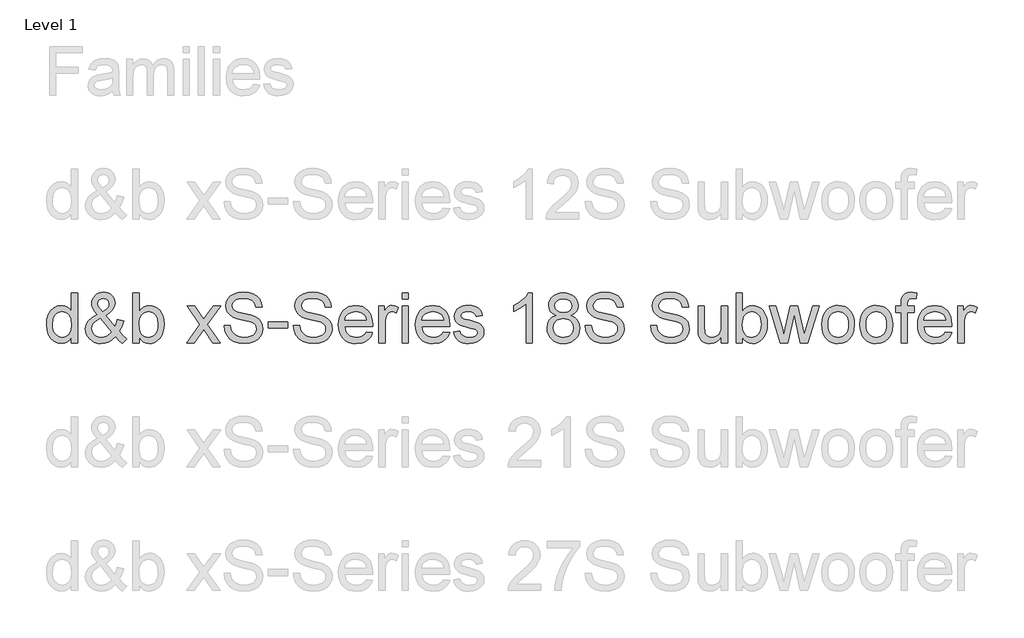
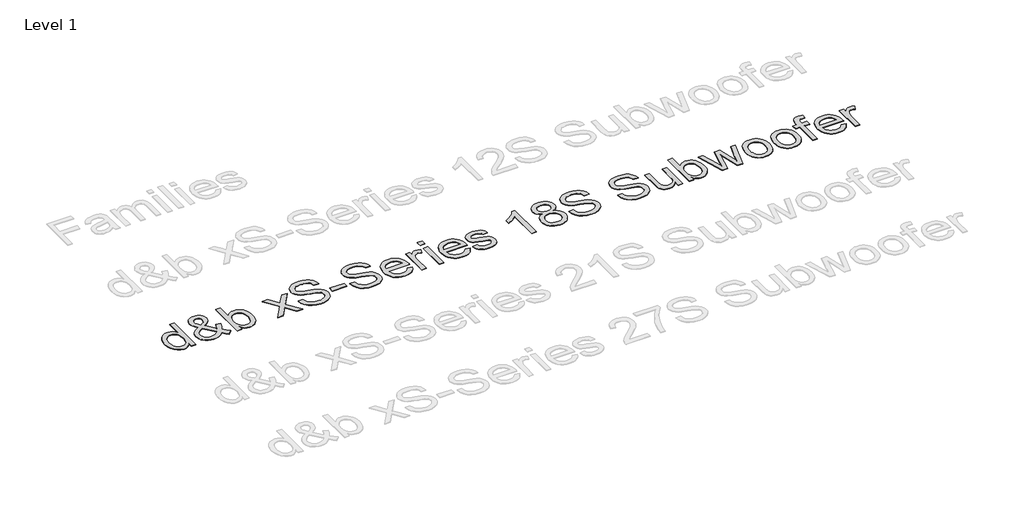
# One storey, part 22 of 55: 1 proxy.
"""IFC4 building model written with IfcOpenShell, lengths in millimetres."""

from ifc_helpers import new_model, si_unit, origin, origin_with_axes, place, context, project, spatial, polyline, outline, extrude, element, save

model = new_model("IFC4")

# Units and contexts
model_context = context("Model", 3, world=origin())
ifc_project = project(units=[si_unit("LENGTHUNIT", "METRE", prefix="MILLI")], contexts=[model_context])

# Site, building, storey
site = spatial("IfcSite", under=ifc_project)
building = spatial("IfcBuilding", under=site)
storey = spatial("IfcBuildingStorey", under=building, Name="Level 1", Elevation=0.0)

# Proxy
placement = place(None, origin())
element("IfcBuildingElementProxy", 1, Name="400mm Arial", ObjectType="400mm Arial", at=placement, inside=storey, context=model_context, shape_type="SweptSolid", body=[
    extrude(outline(polyline([(-20879.8211974, -15148.6945164), (-20879.8211974, -15101.3113154), (-20894.8491769, -15124.7883181), (-20913.0532043, -15141.5576057), (-20934.4332796, -15151.6191783), (-20958.9894028, -15154.9730358), (-20991.4611202, -15150.1169935), (-21021.1859854, -15135.5488665), (-21046.3491139, -15112.2864616), (-21065.1356211, -15081.3475858), (-21076.8342686, -15043.9830379), (-21080.7338177, -15001.4436165), (-21077.1408369, -14959.4314926), (-21066.3618945, -14921.4905962), (-21048.4092531, -14889.7791682), (-21023.2951755, -14866.4554497), (-20992.9203855, -14852.1080519), (-20959.1856065, -14847.325586), (-20934.6110892, -14850.7468885), (-20912.8815261, -14861.0107962), (-20894.4629008, -14876.7438829), (-20879.8211974, -14896.5727224), (-20879.8211974, -14746.8692758), (-20829.5930424, -14746.8692758), (-20829.5930424, -15148.6945164), (-20879.8211974, -15148.6945164)]), holes=[polyline([(-21030.5056627, -15001.2474128), (-21029.089317, -15025.6042665), (-21024.8402799, -15046.6808392), (-21017.7585515, -15064.4771307), (-21007.8441318, -15078.9931411), (-20983.1469871, -15098.3069458), (-20969.2717046, -15103.135397), (-20954.3786151, -15104.7448807), (-20939.415015, -15103.2089734), (-20925.6225058, -15098.6012514), (-20901.5507606, -15080.1703635), (-20892.0440767, -15066.2613584), (-20885.2535882, -15049.1088603), (-20879.8211974, -15005.0733855), (-20885.3516901, -14956.9298951), (-20892.2648059, -14938.3947739), (-20901.9431681, -14923.5507354), (-20913.6448812, -14912.1770504), (-20926.6280499, -14904.0529896), (-20940.8926743, -14899.1785532), (-20956.4387543, -14897.5537411), (-20971.6261493, -14899.1141738), (-20985.5014319, -14903.7954722), (-20998.064602, -14911.5976362), (-21009.3156597, -14922.5206658), (-21018.586286, -14936.8036843), (-21025.2081619, -14954.6858149), (-21030.5056627, -15001.2474128)])]), origin_with_axes(), (0.0, 0.0, 1.0), 5.0),
    extrude(outline(polyline([(-20523.809528, -15099.0549725), (-20549.3405384, -15123.5191252), (-20577.0788409, -15140.99352), (-20607.0734862, -15151.4781569), (-20639.3735254, -15154.9730358), (-20668.6814577, -15152.3855991), (-20694.8010793, -15144.623289), (-20717.7323904, -15131.6861055), (-20737.4753908, -15113.5740486), (-20750.308341, -15096.2038871), (-20759.4747341, -15077.8404442), (-20764.9745699, -15058.4837198), (-20766.8078485, -15038.1337141), (-20760.9094739, -15002.9396699), (-20743.2143499, -14971.3263438), (-20713.796053, -14943.3182613), (-20672.7281596, -14918.9399477), (-20694.6416638, -14890.5885086), (-20707.7995765, -14868.1231814), (-20714.3846642, -14848.9442668), (-20716.5796934, -14830.4520651), (-20714.8506481, -14812.8979626), (-20709.6635119, -14796.5333452), (-20701.018285, -14781.3582129), (-20688.9149674, -14767.3725657), (-20674.1935562, -14755.6555241), (-20657.6940487, -14747.2862088), (-20639.4164449, -14742.2646195), (-20619.3607448, -14740.5907564), (-20600.212487, -14742.1910431), (-20582.8913764, -14746.9919032), (-20567.397413, -14754.9933366), (-20553.7305969, -14766.1953433), (-20542.5715097, -14779.6414302), (-20534.6007332, -14794.3751041), (-20529.8182672, -14810.396365), (-20528.2241119, -14827.7052129), (-20532.9452642, -14855.68877), (-20547.108721, -14881.563137), (-20570.7144823, -14905.3283139), (-20603.7625482, -14926.9843007), (-20531.069066, -15017.5323224), (-20518.6837055, -14991.6579554), (-20509.3885538, -14961.9085647), (-20459.1603987, -14972.7978718), (-20474.6114425, -15019.3226815), (-20494.6732739, -15055.4977443), (-20466.1256311, -15088.8033276), (-20434.0463211, -15116.3209009), (-20471.7174374, -15154.9730358), (-20497.3465498, -15131.52669), (-20523.809528, -15099.0549725)]), holes=[polyline([(-20557.4584678, -15062.8553842), (-20647.1235727, -14950.9211558), (-20681.3733865, -14972.7733463), (-20702.305872, -14993.0068561), (-20713.0112381, -15012.3329235), (-20716.5796934, -15031.4627873), (-20711.6991256, -15055.1543878), (-20697.0574222, -15079.7289051), (-20686.2784798, -15090.6733944), (-20673.4639236, -15098.4908868), (-20658.6137537, -15103.1813823), (-20641.7279702, -15104.7448807), (-20619.0051256, -15101.8263502), (-20595.5710425, -15093.0707588), (-20574.1480476, -15079.6798541), (-20557.4584678, -15062.8553842)]), polyline([(-20629.1709314, -14895.2973981), (-20602.9041569, -14878.6323438), (-20587.8700461, -14864.1500559), (-20580.8067117, -14850.0601755), (-20578.452267, -14834.5723435), (-20581.5547385, -14817.0243723), (-20590.862153, -14803.0325938), (-20604.829406, -14793.8723321), (-20621.9113933, -14790.8189115), (-20639.3612626, -14793.8478066), (-20653.6473468, -14802.9344919), (-20663.1754905, -14816.3867102), (-20666.3515384, -14832.5122043), (-20662.0350563, -14850.9063041), (-20648.9875082, -14871.360543), (-20629.1709314, -14895.2973981)])]), origin_with_axes(), (0.0, 0.0, 1.0), 5.0),
    extrude(outline(polyline([(-20333.590011, -15148.6945164), (-20383.8181661, -15148.6945164), (-20383.8181661, -14746.8692758), (-20333.590011, -14746.8692758), (-20333.590011, -14895.8860093), (-20317.0721094, -14874.6408241), (-20298.4204923, -14859.4656918), (-20277.6351595, -14850.3606124), (-20254.7161112, -14847.325586), (-20228.8417442, -14850.0601755), (-20204.3898543, -14858.263944), (-20182.758393, -14871.4218567), (-20165.3453119, -14889.0188788), (-20151.6968898, -14910.883332), (-20141.3594058, -14936.8435381), (-20134.8478945, -14965.8203766), (-20132.6773907, -14996.734727), (-20134.9245365, -15032.4070178), (-20141.6659741, -15063.7873519), (-20152.9017034, -15090.8757295), (-20168.6317244, -15113.6721505), (-20187.5132678, -15131.7412878), (-20208.2035643, -15144.6478145), (-20230.702614, -15152.3917305), (-20255.0104168, -15154.9730358), (-20278.6836232, -15151.6437038), (-20299.671291, -15141.6557076), (-20317.9734203, -15125.0090473), (-20333.590011, -15101.7037229), (-20333.590011, -15148.6945164)]), holes=[polyline([(-20333.590011, -14999.0891717), (-20330.1564457, -15040.9786682), (-20319.8557498, -15069.3301073), (-20307.6849872, -15084.8240707), (-20293.5399244, -15095.8911874), (-20277.4205617, -15102.5314574), (-20259.3268989, -15104.7448807), (-20244.3050508, -15103.1139372), (-20230.3377977, -15098.2211067), (-20217.4251396, -15090.0663891), (-20205.5670767, -15078.6497845), (-20195.6526569, -15064.0019498), (-20188.5709285, -15046.1535416), (-20184.3218914, -15025.1045601), (-20182.9055458, -15000.8550053), (-20188.3379366, -14954.8942814), (-20195.1284251, -14937.1010555), (-20204.6351089, -14922.7659205), (-20216.0670419, -14911.735592), (-20228.6332778, -14903.8567859), (-20242.3338164, -14899.1295023), (-20257.1686579, -14897.5537411), (-20272.190506, -14899.1846846), (-20286.1577591, -14904.0775151), (-20299.0704171, -14912.2322327), (-20310.9284801, -14923.6488372), (-20320.8428999, -14938.1495192), (-20327.9246283, -14955.556469), (-20332.1736653, -14975.8696865), (-20333.590011, -14999.0891717)])]), origin_with_axes(), (0.0, 0.0, 1.0), 5.0),
    extrude(outline(polyline([(-19950.6003285, -15148.6945164), (-19843.2768878, -15000.2663941), (-19944.3218092, -14853.6041054), (-19884.0872638, -14853.6041054), (-19835.3306367, -14924.3355503), (-19812.4729021, -14957.5920827), (-19792.6563253, -14930.3197641), (-19737.1306695, -14853.6041054), (-19676.6999204, -14853.6041054), (-19782.8461387, -15000.364496), (-19680.623995, -15148.6945164), (-19740.9566422, -15148.6945164), (-19802.5646137, -15059.4218189), (-19813.7482263, -15043.0388074), (-19890.1695795, -15148.6945164), (-19950.6003285, -15148.6945164)])), origin_with_axes(), (0.0, 0.0, 1.0), 5.0),
    extrude(outline(polyline([(-19649.2313981, -15010.56709), (-19599.003243, -15010.56709), (-19593.2397584, -15038.4402825), (-19582.8164352, -15060.844296), (-19566.556051, -15078.6252591), (-19543.2813835, -15092.6293004), (-19514.8318425, -15101.7159856), (-19483.0468381, -15104.7448807), (-19455.063281, -15102.4517496), (-19430.5623402, -15095.5723563), (-19410.7089752, -15084.6830493), (-19396.6681457, -15070.3601769), (-19388.3172244, -15053.9158517), (-19385.533584, -15036.6621862), (-19387.6182486, -15019.849979), (-19393.8722425, -15005.3186402), (-19406.5764341, -14992.9210169), (-19428.0116917, -14982.5099565), (-19501.1466323, -14963.3310418), (-19549.1552327, -14950.639113), (-19579.8733793, -14938.5603208), (-19604.8770922, -14921.6622745), (-19622.5967416, -14901.1835101), (-19633.1549549, -14877.565486), (-19636.6743593, -14851.2496606), (-19632.3210891, -14821.8313637), (-19619.2612782, -14794.3996296), (-19597.8382834, -14771.1494875), (-19568.395461, -14754.2759667), (-19533.054264, -14744.012059), (-19493.9361452, -14740.5907564), (-19451.5561394, -14744.1714745), (-19414.4736342, -14754.9136288), (-19384.013005, -14772.59649), (-19361.4986269, -14796.999329), (-19347.249331, -14826.6015669), (-19341.5839483, -14859.8826247), (-19391.8121033, -14859.8826247), (-19401.0336787, -14829.9125049), (-19409.3968627, -14818.0544419), (-19420.2616443, -14808.2810436), (-19450.3053406, -14795.1844445), (-19491.9741079, -14790.8189115), (-19534.6238939, -14795.1353936), (-19550.9271976, -14800.5309962), (-19563.8827752, -14808.0848398), (-19580.805347, -14827.1411272), (-19586.4462043, -14849.7781326), (-19582.4485532, -14869.0796746), (-19570.4556002, -14884.6042948), (-19542.1041611, -14898.4857088), (-19488.4424407, -14912.6614283), (-19433.0639377, -14926.1259093), (-19399.5621507, -14937.8736077), (-19370.9286687, -14956.0960292), (-19350.9526764, -14978.5858819), (-19339.2172408, -15005.097911), (-19335.3054289, -15035.3868619), (-19339.805852, -15066.3502632), (-19353.3071212, -15095.4742545), (-19375.2574136, -15120.5392811), (-19405.1049061, -15139.3257883), (-19440.9979261, -15151.0612239), (-19481.0848008, -15154.9730358), (-19530.2951491, -15150.7546556), (-19570.7989567, -15138.099515), (-19603.0622077, -15116.958563), (-19627.5508858, -15087.2827487), (-19643.2717098, -15051.1322113), (-19649.2313981, -15010.56709)])), origin_with_axes(), (0.0, 0.0, 1.0), 5.0),
    extrude(outline(polyline([(-19291.3557932, -15029.4026481), (-19291.3557932, -14979.174493), (-19134.3928086, -14979.174493), (-19134.3928086, -15029.4026481), (-19291.3557932, -15029.4026481)])), origin_with_axes(), (0.0, 0.0, 1.0), 5.0),
    extrude(outline(polyline([(-19090.4431729, -15010.56709), (-19040.2150178, -15010.56709), (-19034.4515332, -15038.4402825), (-19024.02821, -15060.844296), (-19007.7678258, -15078.6252591), (-18984.4931583, -15092.6293004), (-18956.0436173, -15101.7159856), (-18924.2586129, -15104.7448807), (-18896.2750558, -15102.4517496), (-18871.774115, -15095.5723563), (-18851.9207499, -15084.6830493), (-18837.8799205, -15070.3601769), (-18829.5289992, -15053.9158517), (-18826.7453587, -15036.6621862), (-18828.8300234, -15019.849979), (-18835.0840173, -15005.3186402), (-18847.7882089, -14992.9210169), (-18869.2234665, -14982.5099565), (-18942.3584071, -14963.3310418), (-18990.3670075, -14950.639113), (-19021.0851541, -14938.5603208), (-19046.088867, -14921.6622745), (-19063.8085164, -14901.1835101), (-19074.3667297, -14877.565486), (-19077.8861341, -14851.2496606), (-19073.5328638, -14821.8313637), (-19060.473053, -14794.3996296), (-19039.0500582, -14771.1494875), (-19009.6072358, -14754.2759667), (-18974.2660388, -14744.012059), (-18935.14792, -14740.5907564), (-18892.7679141, -14744.1714745), (-18855.685409, -14754.9136288), (-18825.2247798, -14772.59649), (-18802.7104017, -14796.999329), (-18788.4611058, -14826.6015669), (-18782.7957231, -14859.8826247), (-18833.0238781, -14859.8826247), (-18842.2454535, -14829.9125049), (-18850.6086375, -14818.0544419), (-18861.4734191, -14808.2810436), (-18891.5171154, -14795.1844445), (-18933.1858827, -14790.8189115), (-18975.8356687, -14795.1353936), (-18992.1389724, -14800.5309962), (-19005.09455, -14808.0848398), (-19022.0171218, -14827.1411272), (-19027.657979, -14849.7781326), (-19023.660328, -14869.0796746), (-19011.667375, -14884.6042948), (-18983.3159359, -14898.4857088), (-18929.6542155, -14912.6614283), (-18874.2757125, -14926.1259093), (-18840.7739255, -14937.8736077), (-18812.1404435, -14956.0960292), (-18792.1644512, -14978.5858819), (-18780.4290156, -15005.097911), (-18776.5172037, -15035.3868619), (-18781.0176267, -15066.3502632), (-18794.518896, -15095.4742545), (-18816.4691883, -15120.5392811), (-18846.3166809, -15139.3257883), (-18882.2097009, -15151.0612239), (-18922.2965756, -15154.9730358), (-18971.5069238, -15150.7546556), (-19012.0107315, -15138.099515), (-19044.2739825, -15116.958563), (-19068.7626606, -15087.2827487), (-19084.4834846, -15051.1322113), (-19090.4431729, -15010.56709)])), origin_with_axes(), (0.0, 0.0, 1.0), 5.0),
    extrude(outline(polyline([(-18500.850962, -15060.795245), (-18451.6038255, -15067.0737644), (-18459.1546035, -15086.7983707), (-18469.3480004, -15104.180795), (-18482.1840164, -15119.2210372), (-18497.6626513, -15131.9190974), (-18515.6244897, -15142.0051955), (-18535.9101161, -15149.2095512), (-18583.4527326, -15154.9730358), (-18614.618469, -15152.4867667), (-18642.3874282, -15145.0279592), (-18666.7596104, -15132.5966135), (-18687.7350155, -15115.1927294), (-18704.602405, -15093.300685), (-18716.6505403, -15067.4048582), (-18723.8794215, -15037.5052491), (-18726.2890486, -15003.6018575), (-18723.8548961, -14968.5488348), (-18716.5524385, -14937.6528785), (-18704.3816758, -14910.9139888), (-18687.342608, -14888.3321657), (-18666.4223852, -14870.3917871), (-18642.6081574, -14857.5772309), (-18615.8999246, -14849.8884972), (-18586.2976867, -14847.325586), (-18557.6488763, -14849.8823658), (-18531.7407868, -14857.5527054), (-18508.5734182, -14870.3366048), (-18488.1467704, -14888.2340638), (-18471.472519, -14910.766836), (-18459.5623394, -14937.4566748), (-18452.4162316, -14968.3035801), (-18450.0341957, -15003.3075519), (-18450.3285013, -15016.8456094), (-18676.0608935, -15016.8456094), (-18673.1515601, -15036.8890467), (-18667.3666157, -15054.4431493), (-18658.7060604, -15069.507917), (-18647.1698942, -15082.0833498), (-18633.3957791, -15091.9977696), (-18618.0213774, -15099.079498), (-18582.4717139, -15104.7448807), (-18555.7389556, -15102.1206558), (-18533.2245775, -15094.2479811), (-18514.9285796, -15080.6363473), (-18500.850962, -15060.795245)]), holes=[polyline([(-18676.0608935, -14966.6174543), (-18500.2623508, -14966.6174543), (-18507.0559049, -14940.0808997), (-18520.3732332, -14921.0981887), (-18534.0707061, -14910.7974929), (-18549.65664, -14903.439853), (-18567.1310348, -14899.025269), (-18586.4938904, -14897.5537411), (-18620.3512967, -14902.2503679), (-18648.3471166, -14916.3402483), (-18667.8080741, -14938.3028034), (-18676.0608935, -14966.6174543)])]), origin_with_axes(), (0.0, 0.0, 1.0), 5.0),
    extrude(outline(polyline([(-18399.8060406, -15148.6945164), (-18399.8060406, -14853.6041054), (-18355.8564049, -14853.6041054), (-18355.8564049, -14897.2594355), (-18339.6205462, -14871.9491542), (-18324.6600117, -14857.0376707), (-18309.6504263, -14849.7536071), (-18293.2674148, -14847.325586), (-18268.2514391, -14851.2006097), (-18242.843056, -14862.8256807), (-18259.618475, -14907.8544369), (-18277.2768108, -14900.128915), (-18294.9351465, -14897.5537411), (-18309.9324692, -14900.0308132), (-18323.3356365, -14907.4620295), (-18334.1636299, -14919.2833042), (-18341.4354307, -14934.9305518), (-18347.5422718, -14962.9876853), (-18349.5778855, -14993.5954673), (-18349.5778855, -15148.6945164), (-18399.8060406, -15148.6945164)])), origin_with_axes(), (0.0, 0.0, 1.0), 5.0),
    extrude(outline(polyline([(-18211.4504591, -14797.0974309), (-18211.4504591, -14746.8692758), (-18161.222304, -14746.8692758), (-18161.222304, -14797.0974309), (-18211.4504591, -14797.0974309)])), origin_with_axes(), (0.0, 0.0, 1.0), 5.0),
    extrude(outline(polyline([(-18211.4504591, -15148.6945164), (-18211.4504591, -14853.6041054), (-18161.222304, -14853.6041054), (-18161.222304, -15148.6945164), (-18211.4504591, -15148.6945164)])), origin_with_axes(), (0.0, 0.0, 1.0), 5.0),
    extrude(outline(polyline([(-17879.2775429, -15060.795245), (-17830.0304065, -15067.0737644), (-17837.5811844, -15086.7983707), (-17847.7745814, -15104.180795), (-17860.6105973, -15119.2210372), (-17876.0892323, -15131.9190974), (-17894.0510707, -15142.0051955), (-17914.336697, -15149.2095512), (-17961.8793136, -15154.9730358), (-17993.0450499, -15152.4867667), (-18020.8140092, -15145.0279592), (-18045.1861914, -15132.5966135), (-18066.1615965, -15115.1927294), (-18083.0289859, -15093.300685), (-18095.0771213, -15067.4048582), (-18102.3060025, -15037.5052491), (-18104.7156295, -15003.6018575), (-18102.281477, -14968.5488348), (-18094.9790194, -14937.6528785), (-18082.8082567, -14910.9139888), (-18065.769189, -14888.3321657), (-18044.8489662, -14870.3917871), (-18021.0347384, -14857.5772309), (-17994.3265055, -14849.8884972), (-17964.7242676, -14847.325586), (-17936.0754573, -14849.8823658), (-17910.1673678, -14857.5527054), (-17886.9999991, -14870.3366048), (-17866.5733513, -14888.2340638), (-17849.8990999, -14910.766836), (-17837.9889203, -14937.4566748), (-17830.8428126, -14968.3035801), (-17828.4607766, -15003.3075519), (-17828.7550822, -15016.8456094), (-18054.4874745, -15016.8456094), (-18051.578141, -15036.8890467), (-18045.7931967, -15054.4431493), (-18037.1326413, -15069.507917), (-18025.5964751, -15082.0833498), (-18011.8223601, -15091.9977696), (-17996.4479584, -15099.079498), (-17960.8982949, -15104.7448807), (-17934.1655366, -15102.1206558), (-17911.6511585, -15094.2479811), (-17893.3551606, -15080.6363473), (-17879.2775429, -15060.795245)]), holes=[polyline([(-18054.4874745, -14966.6174543), (-17878.6889317, -14966.6174543), (-17885.4824859, -14940.0808997), (-17898.7998141, -14921.0981887), (-17912.4972871, -14910.7974929), (-17928.0832209, -14903.439853), (-17945.5576157, -14899.025269), (-17964.9204714, -14897.5537411), (-17998.7778777, -14902.2503679), (-18026.7736975, -14916.3402483), (-18046.234655, -14938.3028034), (-18054.4874745, -14966.6174543)])]), origin_with_axes(), (0.0, 0.0, 1.0), 5.0),
    extrude(outline(polyline([(-17797.0681797, -15060.795245), (-17746.8400246, -15054.5167257), (-17738.918299, -15076.0010342), (-17723.5898825, -15091.7954345), (-17700.7566734, -15101.5075192), (-17670.3205696, -15104.7448807), (-17640.2523479, -15101.7772993), (-17619.1113959, -15092.874555), (-17606.6034081, -15079.9741597), (-17602.4340788, -15065.0136253), (-17606.6279335, -15052.2113318), (-17619.2094978, -15042.4501962), (-17670.9091808, -15028.1273239), (-17746.545719, -15003.5528066), (-17765.6878455, -14991.2042343), (-17779.5569967, -14974.858011), (-17787.9814944, -14955.556469), (-17790.7896603, -14934.3419406), (-17788.5333174, -14914.880983), (-17781.7642887, -14896.9160789), (-17771.0957109, -14881.1584668), (-17757.1407205, -14868.3193852), (-17725.2085633, -14853.4569526), (-17704.3251287, -14848.8584276), (-17681.9946916, -14847.325586), (-17649.302245, -14849.7903953), (-17620.8772295, -14857.1848234), (-17598.0194949, -14868.785369), (-17582.0288908, -14883.8685308), (-17571.4338893, -14903.5502176), (-17564.7629625, -14928.946338), (-17614.9911176, -14935.2248574), (-17621.3309506, -14919.4181943), (-17633.8757267, -14907.5110804), (-17652.748073, -14900.0430759), (-17678.070617, -14897.5537411), (-17706.9125654, -14899.9327113), (-17726.140531, -14907.069622), (-17736.9562617, -14917.3703179), (-17740.5615053, -14929.2406436), (-17734.5772915, -14943.8578215), (-17715.8398352, -14954.9433323), (-17672.5769125, -14965.6364356), (-17598.8533607, -14989.2789852), (-17579.3801404, -15000.5852252), (-17564.6158097, -15016.0607944), (-17555.3083952, -15035.7547439), (-17552.2059237, -15059.7161245), (-17555.8479555, -15084.4868455), (-17566.7740507, -15107.7860386), (-17584.5672766, -15127.7865564), (-17608.8107, -15142.6612517), (-17638.0941069, -15151.8950898), (-17671.0072827, -15154.9730358), (-17698.040478, -15153.4892451), (-17721.6523707, -15149.037873), (-17741.8429609, -15141.6189194), (-17758.6122485, -15131.2323844), (-17772.3097214, -15117.9273189), (-17783.2848676, -15101.7527738), (-17791.5376871, -15082.7087492), (-17797.0681797, -15060.795245)])), origin_with_axes(), (0.0, 0.0, 1.0), 5.0),
    extrude(outline(polyline([(-17162.9377219, -15148.6945164), (-17213.165877, -15148.6945164), (-17213.165877, -14835.5533621), (-17234.1351507, -14852.5127221), (-17260.7452817, -14869.4475566), (-17313.6221871, -14894.8068888), (-17313.6221871, -14847.325586), (-17274.1729745, -14825.8658029), (-17239.9967371, -14800.3347925), (-17213.0555124, -14773.1851012), (-17195.3113375, -14746.8692758), (-17162.9377219, -14746.8692758), (-17162.9377219, -15148.6945164)])), origin_with_axes(), (0.0, 0.0, 1.0), 5.0),
    extrude(outline(polyline([(-16970.461862, -14927.3767081), (-16997.3540359, -14914.1329563), (-17016.2263822, -14896.1803149), (-17027.3732067, -14873.886666), (-17031.0888148, -14847.6198916), (-17029.0654638, -14827.1349958), (-17022.9954109, -14808.35462), (-17012.8786561, -14791.278764), (-16998.7151992, -14775.907428), (-16981.1856222, -14763.2032364), (-16960.9705065, -14754.1288139), (-16938.0698523, -14748.6841603), (-16912.4836596, -14746.8692758), (-16886.7748395, -14748.7270799), (-16863.702507, -14754.3004921), (-16843.2666622, -14763.5895125), (-16825.467305, -14776.594141), (-16811.0463308, -14792.265914), (-16800.7456349, -14809.5563678), (-16794.5652174, -14828.4655024), (-16792.5050782, -14848.9933177), (-16796.1716354, -14874.4139636), (-16807.1713071, -14896.3274677), (-16825.6267205, -14914.1697445), (-16851.660503, -14927.3767081), (-16820.7461527, -14943.3059985), (-16798.2440373, -14966.7646071), (-16784.5220389, -14996.6243624), (-16779.9480394, -15031.7570929), (-16782.2166451, -15056.8098568), (-16789.022462, -15079.777956), (-16800.3654902, -15100.6613906), (-16816.2457296, -15119.4601605), (-16835.8293145, -15134.9970435), (-16858.282379, -15146.094817), (-16883.604923, -15152.7534811), (-16911.7969465, -15154.9730358), (-16939.9889701, -15152.7442841), (-16965.3115141, -15146.0580288), (-16987.7645785, -15134.91427), (-17007.3481634, -15119.3130077), (-17023.2284029, -15100.3824134), (-17034.571431, -15079.2506585), (-17041.377248, -15055.9177429), (-17043.6458536, -15030.3836668), (-17038.8879131, -14993.8897729), (-17024.6140917, -14963.8706021), (-17001.5601533, -14941.3562239), (-16970.461862, -14927.3767081)]), holes=[polyline([(-16993.4176985, -15028.6178332), (-16991.3207711, -15047.8335361), (-16985.029989, -15066.4361023), (-16973.4171807, -15082.6596983), (-16955.3541747, -15094.7384905), (-16933.7227134, -15102.2432832), (-16911.4045391, -15104.7448807), (-16877.216039, -15099.4841682), (-16863.3223623, -15092.9082775), (-16851.5624012, -15083.7020306), (-16835.5227462, -15059.8019637), (-16830.1761945, -15030.187463), (-16835.6944245, -15000.0701904), (-16852.2491142, -14975.6428259), (-16864.3279064, -14966.2005214), (-16878.4913632, -14959.4560181), (-16913.0722708, -14954.0604155), (-16946.7825243, -14959.3824417), (-16960.5198511, -14966.0349745), (-16972.1786447, -14975.3485203), (-16988.1079351, -14999.3099009), (-16993.4176985, -15028.6178332)]), polyline([(-16980.8606597, -14849.0914196), (-16976.4092876, -14871.0171865), (-16963.0551712, -14888.5283694), (-16941.1907179, -14900.0062877), (-16911.2083353, -14903.8322604), (-16881.9249285, -14900.0308132), (-16860.3915691, -14888.6264713), (-16847.1478172, -14871.7038995), (-16842.7332333, -14851.3477625), (-16847.29497, -14830.2190732), (-16860.9801803, -14812.7446784), (-16882.8078453, -14801.0092428), (-16911.7969465, -14797.0974309), (-16940.9699887, -14800.9234037), (-16962.7608656, -14812.4013219), (-16976.3357112, -14829.2257918), (-16980.8606597, -14849.0914196)])]), origin_with_axes(), (0.0, 0.0, 1.0), 5.0),
    extrude(outline(polyline([(-16735.9984038, -15010.56709), (-16685.7702487, -15010.56709), (-16680.0067641, -15038.4402825), (-16669.5834409, -15060.844296), (-16653.3230567, -15078.6252591), (-16630.0483891, -15092.6293004), (-16601.5988482, -15101.7159856), (-16569.8138438, -15104.7448807), (-16541.8302867, -15102.4517496), (-16517.3293458, -15095.5723563), (-16497.4759808, -15084.6830493), (-16483.4351513, -15070.3601769), (-16475.08423, -15053.9158517), (-16472.3005896, -15036.6621862), (-16474.3852543, -15019.849979), (-16480.6392482, -15005.3186402), (-16493.3434397, -14992.9210169), (-16514.7786973, -14982.5099565), (-16587.913638, -14963.3310418), (-16635.9222383, -14950.639113), (-16666.6403849, -14938.5603208), (-16691.6440979, -14921.6622745), (-16709.3637473, -14901.1835101), (-16719.9219606, -14877.565486), (-16723.441365, -14851.2496606), (-16719.0880947, -14821.8313637), (-16706.0282839, -14794.3996296), (-16684.605289, -14771.1494875), (-16655.1624667, -14754.2759667), (-16619.8212697, -14744.012059), (-16580.7031509, -14740.5907564), (-16538.323145, -14744.1714745), (-16501.2406399, -14754.9136288), (-16470.7800107, -14772.59649), (-16448.2656326, -14796.999329), (-16434.0163367, -14826.6015669), (-16428.3509539, -14859.8826247), (-16478.579109, -14859.8826247), (-16487.8006843, -14829.9125049), (-16496.1638684, -14818.0544419), (-16507.02865, -14808.2810436), (-16537.0723462, -14795.1844445), (-16578.7411136, -14790.8189115), (-16621.3908995, -14795.1353936), (-16637.6942033, -14800.5309962), (-16650.6497809, -14808.0848398), (-16667.5723527, -14827.1411272), (-16673.2132099, -14849.7781326), (-16669.2155589, -14869.0796746), (-16657.2226059, -14884.6042948), (-16628.8711668, -14898.4857088), (-16575.2094464, -14912.6614283), (-16519.8309434, -14926.1259093), (-16486.3291564, -14937.8736077), (-16457.6956744, -14956.0960292), (-16437.7196821, -14978.5858819), (-16425.9842464, -15005.097911), (-16422.0724345, -15035.3868619), (-16426.5728576, -15066.3502632), (-16440.0741268, -15095.4742545), (-16462.0244192, -15120.5392811), (-16491.8719118, -15139.3257883), (-16527.7649318, -15151.0612239), (-16567.8518065, -15154.9730358), (-16617.0621547, -15150.7546556), (-16657.5659624, -15138.099515), (-16689.8292134, -15116.958563), (-16714.3178915, -15087.2827487), (-16730.0387154, -15051.1322113), (-16735.9984038, -15010.56709)])), origin_with_axes(), (0.0, 0.0, 1.0), 5.0),
    extrude(outline(polyline([(-16208.6027755, -15010.56709), (-16158.3746204, -15010.56709), (-16152.6111358, -15038.4402825), (-16142.1878126, -15060.844296), (-16125.9274284, -15078.6252591), (-16102.6527609, -15092.6293004), (-16074.2032199, -15101.7159856), (-16042.4182155, -15104.7448807), (-16014.4346584, -15102.4517496), (-15989.9337175, -15095.5723563), (-15970.0803525, -15084.6830493), (-15956.0395231, -15070.3601769), (-15947.6886018, -15053.9158517), (-15944.9049613, -15036.6621862), (-15946.989626, -15019.849979), (-15953.2436199, -15005.3186402), (-15965.9478115, -14992.9210169), (-15987.383069, -14982.5099565), (-16060.5180097, -14963.3310418), (-16108.5266101, -14950.639113), (-16139.2447566, -14938.5603208), (-16164.2484696, -14921.6622745), (-16181.968119, -14901.1835101), (-16192.5263323, -14877.565486), (-16196.0457367, -14851.2496606), (-16191.6924664, -14821.8313637), (-16178.6326556, -14794.3996296), (-16157.2096607, -14771.1494875), (-16127.7668384, -14754.2759667), (-16092.4256414, -14744.012059), (-16053.3075226, -14740.5907564), (-16010.9275167, -14744.1714745), (-15973.8450116, -14754.9136288), (-15943.3843824, -14772.59649), (-15920.8700043, -14796.999329), (-15906.6207084, -14826.6015669), (-15900.9553256, -14859.8826247), (-15951.1834807, -14859.8826247), (-15960.4050561, -14829.9125049), (-15968.7682401, -14818.0544419), (-15979.6330217, -14808.2810436), (-16009.6767179, -14795.1844445), (-16051.3454853, -14790.8189115), (-16093.9952712, -14795.1353936), (-16110.298575, -14800.5309962), (-16123.2541526, -14808.0848398), (-16140.1767244, -14827.1411272), (-16145.8175816, -14849.7781326), (-16141.8199306, -14869.0796746), (-16129.8269776, -14884.6042948), (-16101.4755385, -14898.4857088), (-16047.8138181, -14912.6614283), (-15992.4353151, -14926.1259093), (-15958.9335281, -14937.8736077), (-15930.3000461, -14956.0960292), (-15910.3240538, -14978.5858819), (-15898.5886181, -15005.097911), (-15894.6768063, -15035.3868619), (-15899.1772293, -15066.3502632), (-15912.6784986, -15095.4742545), (-15934.6287909, -15120.5392811), (-15964.4762835, -15139.3257883), (-16000.3693035, -15151.0612239), (-16040.4561782, -15154.9730358), (-16089.6665264, -15150.7546556), (-16130.1703341, -15138.099515), (-16162.4335851, -15116.958563), (-16186.9222632, -15087.2827487), (-16202.6430872, -15051.1322113), (-16208.6027755, -15010.56709)])), origin_with_axes(), (0.0, 0.0, 1.0), 5.0),
    extrude(outline(polyline([(-15637.2575115, -15148.6945164), (-15637.2575115, -15097.975852), (-15655.4308821, -15122.9121199), (-15676.5963595, -15140.7237399), (-15700.7539439, -15151.4107118), (-15727.9036351, -15154.9730358), (-15752.3677878, -15152.4714382), (-15775.1396833, -15144.9666455), (-15794.2450216, -15133.684931), (-15807.7095026, -15119.852568), (-15816.7716624, -15103.0526236), (-15822.6700371, -15082.8681648), (-15825.613093, -15036.1716768), (-15825.613093, -14853.6041054), (-15775.384938, -14853.6041054), (-15775.384938, -15012.5291273), (-15772.3437801, -15063.738301), (-15765.0229284, -15080.8202883), (-15752.4781524, -15093.8065227), (-15735.5433179, -15102.0102912), (-15715.0522907, -15104.7448807), (-15693.3840412, -15101.9489776), (-15673.1137433, -15093.5612681), (-15656.399638, -15080.3543045), (-15645.3999663, -15063.1006389), (-15639.2931252, -15039.4703521), (-15637.2575115, -15007.1335247), (-15637.2575115, -14853.6041054), (-15587.0293564, -14853.6041054), (-15587.0293564, -15148.6945164), (-15637.2575115, -15148.6945164)])), origin_with_axes(), (0.0, 0.0, 1.0), 5.0),
    extrude(outline(polyline([(-15467.7374881, -15148.6945164), (-15517.9656432, -15148.6945164), (-15517.9656432, -14746.8692758), (-15467.7374881, -14746.8692758), (-15467.7374881, -14895.8860093), (-15451.2195865, -14874.6408241), (-15432.5679694, -14859.4656918), (-15411.7826367, -14850.3606124), (-15388.8635884, -14847.325586), (-15362.9892214, -14850.0601755), (-15338.5373314, -14858.263944), (-15316.9058701, -14871.4218567), (-15299.492789, -14889.0188788), (-15285.844367, -14910.883332), (-15275.5068829, -14936.8435381), (-15268.9953716, -14965.8203766), (-15266.8248678, -14996.734727), (-15269.0720137, -15032.4070178), (-15275.8134512, -15063.7873519), (-15287.0491805, -15090.8757295), (-15302.7792015, -15113.6721505), (-15321.6607449, -15131.7412878), (-15342.3510414, -15144.6478145), (-15364.8500911, -15152.3917305), (-15389.1578939, -15154.9730358), (-15412.8311003, -15151.6437038), (-15433.8187682, -15141.6557076), (-15452.1208974, -15125.0090473), (-15467.7374881, -15101.7037229), (-15467.7374881, -15148.6945164)]), holes=[polyline([(-15467.7374881, -14999.0891717), (-15464.3039228, -15040.9786682), (-15454.003227, -15069.3301073), (-15441.8324643, -15084.8240707), (-15427.6874016, -15095.8911874), (-15411.5680388, -15102.5314574), (-15393.474376, -15104.7448807), (-15378.4525279, -15103.1139372), (-15364.4852748, -15098.2211067), (-15351.5726168, -15090.0663891), (-15339.7145538, -15078.6497845), (-15329.800134, -15064.0019498), (-15322.7184056, -15046.1535416), (-15318.4693686, -15025.1045601), (-15317.0530229, -15000.8550053), (-15322.4854137, -14954.8942814), (-15329.2759022, -14937.1010555), (-15338.7825861, -14922.7659205), (-15350.2145191, -14911.735592), (-15362.7807549, -14903.8567859), (-15376.4812935, -14899.1295023), (-15391.316135, -14897.5537411), (-15406.3379831, -14899.1846846), (-15420.3052362, -14904.0775151), (-15433.2178942, -14912.2322327), (-15445.0759572, -14923.6488372), (-15454.990377, -14938.1495192), (-15462.0721054, -14955.556469), (-15466.3211424, -14975.8696865), (-15467.7374881, -14999.0891717)])]), origin_with_axes(), (0.0, 0.0, 1.0), 5.0),
    extrude(outline(polyline([(-15160.9729551, -15148.6945164), (-15251.1285694, -14853.6041054), (-15199.0364788, -14853.6041054), (-15148.0235088, -15025.7728791), (-15132.8177197, -15087.2827487), (-15120.3587828, -15028.029222), (-15079.8427124, -14853.6041054), (-15020.1967783, -14853.6041054), (-14979.6807079, -15027.5387127), (-14968.5951971, -15081.200433), (-14952.7026949, -15024.5956567), (-14901.6897249, -14853.6041054), (-14849.3033288, -14853.6041054), (-14939.7532486, -15148.6945164), (-15000.3802014, -15148.6945164), (-15039.0323364, -14975.6428259), (-15050.2159491, -14921.6867999), (-15099.9535948, -15148.6945164), (-15160.9729551, -15148.6945164)])), origin_with_axes(), (0.0, 0.0, 1.0), 5.0),
    extrude(outline(polyline([(-14827.3285109, -15001.1493109), (-14824.6123155, -14962.932503), (-14816.4637293, -14930.000933), (-14802.8827523, -14902.3546011), (-14783.8693846, -14879.9935072), (-14764.7272581, -14865.7012916), (-14743.5985688, -14855.4925663), (-14720.4833168, -14849.3673311), (-14695.381502, -14847.325586), (-14667.6707907, -14849.8118551), (-14642.6149611, -14857.2706626), (-14620.2140133, -14869.7020083), (-14600.4679472, -14887.1058924), (-14584.3516502, -14908.8937036), (-14572.8400094, -14934.4768306), (-14565.9330249, -14963.8552736), (-14563.6306968, -14997.0290325), (-14567.7019242, -15047.7722224), (-14579.9156064, -15086.3998319), (-14599.9161242, -15115.3276195), (-14627.3478583, -15136.9713435), (-14659.9299404, -15150.4726127), (-14695.381502, -15154.9730358), (-14723.4968835, -15152.4959637), (-14748.7857049, -15145.0647474), (-14771.2479664, -15132.6793869), (-14790.8836679, -15115.3398822), (-14806.8282867, -15093.3405389), (-14818.2173002, -15066.9756626), (-14825.0507082, -15036.2452532), (-14827.3285109, -15001.1493109)]), holes=[polyline([(-14777.1003558, -15001.051209), (-14775.647222, -15025.4141942), (-14771.2878203, -15046.5091609), (-14764.0221509, -15064.3361093), (-14753.8502137, -15078.8950392), (-14741.477116, -15090.2043449), (-14727.6079648, -15098.2824204), (-14712.2427601, -15103.1292656), (-14695.381502, -15104.7448807), (-14678.606083, -15103.1200686), (-14663.302192, -15098.2456322), (-14649.469829, -15090.1215714), (-14637.1089939, -15078.7478864), (-14626.9370568, -15064.0448693), (-14619.6713874, -15045.9328124), (-14615.3119857, -15024.4117157), (-14613.8588518, -14999.4815792), (-14615.3211828, -14975.8911462), (-14619.7081756, -14955.3480025), (-14627.0198302, -14937.8521479), (-14637.2561467, -14923.4035826), (-14649.662967, -14912.0942769), (-14663.486133, -14904.0162014), (-14678.7256446, -14899.1693561), (-14695.381502, -14897.5537411), (-14712.2427601, -14899.1632248), (-14727.6079648, -14903.991676), (-14741.477116, -14912.0390946), (-14753.8502137, -14923.3054807), (-14764.0221509, -14937.8214911), (-14771.2878203, -14955.6177826), (-14775.647222, -14976.6943553), (-14777.1003558, -15001.051209)])]), origin_with_axes(), (0.0, 0.0, 1.0), 5.0),
    extrude(outline(polyline([(-14519.6810611, -15001.1493109), (-14516.9648657, -14962.932503), (-14508.8162795, -14930.000933), (-14495.2353025, -14902.3546011), (-14476.2219347, -14879.9935072), (-14457.0798082, -14865.7012916), (-14435.951119, -14855.4925663), (-14412.8358669, -14849.3673311), (-14387.7340521, -14847.325586), (-14360.0233409, -14849.8118551), (-14334.9675113, -14857.2706626), (-14312.5665635, -14869.7020083), (-14292.8204974, -14887.1058924), (-14276.7042003, -14908.8937036), (-14265.1925596, -14934.4768306), (-14258.2855751, -14963.8552736), (-14255.9832469, -14997.0290325), (-14260.0544744, -15047.7722224), (-14272.2681566, -15086.3998319), (-14292.2686744, -15115.3276195), (-14319.7004085, -15136.9713435), (-14352.2824905, -15150.4726127), (-14387.7340521, -15154.9730358), (-14415.8494336, -15152.4959637), (-14441.1382551, -15145.0647474), (-14463.6005166, -15132.6793869), (-14483.2362181, -15115.3398822), (-14499.1808369, -15093.3405389), (-14510.5698503, -15066.9756626), (-14517.4032584, -15036.2452532), (-14519.6810611, -15001.1493109)]), holes=[polyline([(-14469.452906, -15001.051209), (-14467.9997721, -15025.4141942), (-14463.6403705, -15046.5091609), (-14456.3747011, -15064.3361093), (-14446.2027639, -15078.8950392), (-14433.8296661, -15090.2043449), (-14419.9605149, -15098.2824204), (-14404.5953103, -15103.1292656), (-14387.7340521, -15104.7448807), (-14370.9586332, -15103.1200686), (-14355.6547422, -15098.2456322), (-14341.8223791, -15090.1215714), (-14329.4615441, -15078.7478864), (-14319.2896069, -15064.0448693), (-14312.0239375, -15045.9328124), (-14307.6645359, -15024.4117157), (-14306.211402, -14999.4815792), (-14307.6737329, -14975.8911462), (-14312.0607257, -14955.3480025), (-14319.3723804, -14937.8521479), (-14329.6086969, -14923.4035826), (-14342.0155172, -14912.0942769), (-14355.8386832, -14904.0162014), (-14371.0781948, -14899.1693561), (-14387.7340521, -14897.5537411), (-14404.5953103, -14899.1632248), (-14419.9605149, -14903.991676), (-14433.8296661, -14912.0390946), (-14446.2027639, -14923.3054807), (-14456.3747011, -14937.8214911), (-14463.6403705, -14955.6177826), (-14467.9997721, -14976.6943553), (-14469.452906, -15001.051209)])]), origin_with_axes(), (0.0, 0.0, 1.0), 5.0),
    extrude(outline(polyline([(-14186.9195337, -15148.6945164), (-14186.9195337, -14903.8322604), (-14230.8691694, -14903.8322604), (-14230.8691694, -14853.6041054), (-14186.9195337, -14853.6041054), (-14186.9195337, -14823.8792402), (-14185.5951585, -14799.2801974), (-14181.622033, -14781.9897436), (-14171.5175408, -14765.2879011), (-14155.9193443, -14752.0686747), (-14134.0916792, -14743.460236), (-14105.2987817, -14740.5907564), (-14059.4852106, -14746.0844609), (-14066.8428505, -14793.1733563), (-14095.7829008, -14790.8189115), (-14114.8759763, -14792.9035762), (-14127.4207524, -14799.1575701), (-14134.3737221, -14811.1014722), (-14136.6913786, -14830.2558614), (-14136.6913786, -14853.6041054), (-14080.1847042, -14853.6041054), (-14080.1847042, -14903.8322604), (-14136.6913786, -14903.8322604), (-14136.6913786, -15148.6945164), (-14186.9195337, -15148.6945164)])), origin_with_axes(), (0.0, 0.0, 1.0), 5.0),
    extrude(outline(polyline([(-13829.63254, -15060.795245), (-13780.3854036, -15067.0737644), (-13787.9361815, -15086.7983707), (-13798.1295785, -15104.180795), (-13810.9655944, -15119.2210372), (-13826.4442294, -15131.9190974), (-13844.4060678, -15142.0051955), (-13864.6916941, -15149.2095512), (-13912.2343106, -15154.9730358), (-13943.400047, -15152.4867667), (-13971.1690063, -15145.0279592), (-13995.5411885, -15132.5966135), (-14016.5165935, -15115.1927294), (-14033.383983, -15093.300685), (-14045.4321184, -15067.4048582), (-14052.6609996, -15037.5052491), (-14055.0706266, -15003.6018575), (-14052.6364741, -14968.5488348), (-14045.3340165, -14937.6528785), (-14033.1632538, -14910.9139888), (-14016.1241861, -14888.3321657), (-13995.2039633, -14870.3917871), (-13971.3897355, -14857.5772309), (-13944.6815026, -14849.8884972), (-13915.0792647, -14847.325586), (-13886.4304544, -14849.8823658), (-13860.5223649, -14857.5527054), (-13837.3549962, -14870.3366048), (-13816.9283484, -14888.2340638), (-13800.254097, -14910.766836), (-13788.3439174, -14937.4566748), (-13781.1978096, -14968.3035801), (-13778.8157737, -15003.3075519), (-13779.1100793, -15016.8456094), (-14004.8424716, -15016.8456094), (-14001.9331381, -15036.8890467), (-13996.1481937, -15054.4431493), (-13987.4876384, -15069.507917), (-13975.9514722, -15082.0833498), (-13962.1773572, -15091.9977696), (-13946.8029555, -15099.079498), (-13911.253292, -15104.7448807), (-13884.5205337, -15102.1206558), (-13862.0061556, -15094.2479811), (-13843.7101577, -15080.6363473), (-13829.63254, -15060.795245)]), holes=[polyline([(-14004.8424716, -14966.6174543), (-13829.0439288, -14966.6174543), (-13835.837483, -14940.0808997), (-13849.1548112, -14921.0981887), (-13862.8522842, -14910.7974929), (-13878.438218, -14903.439853), (-13895.9126128, -14899.025269), (-13915.2754685, -14897.5537411), (-13949.1328748, -14902.2503679), (-13977.1286946, -14916.3402483), (-13996.5896521, -14938.3028034), (-14004.8424716, -14966.6174543)])]), origin_with_axes(), (0.0, 0.0, 1.0), 5.0),
    extrude(outline(polyline([(-13728.5876187, -15148.6945164), (-13728.5876187, -14853.6041054), (-13684.637983, -14853.6041054), (-13684.637983, -14897.2594355), (-13668.4021242, -14871.9491542), (-13653.4415898, -14857.0376707), (-13638.4320044, -14849.7536071), (-13622.0489929, -14847.325586), (-13597.0330172, -14851.2006097), (-13571.624634, -14862.8256807), (-13588.400053, -14907.8544369), (-13606.0583888, -14900.128915), (-13623.7167246, -14897.5537411), (-13638.7140472, -14900.0308132), (-13652.1172146, -14907.4620295), (-13662.945208, -14919.2833042), (-13670.2170088, -14934.9305518), (-13676.3238499, -14962.9876853), (-13678.3594636, -14993.5954673), (-13678.3594636, -15148.6945164), (-13728.5876187, -15148.6945164)])), origin_with_axes(), (0.0, 0.0, 1.0), 5.0),
])

save(model, "model.ifc")
